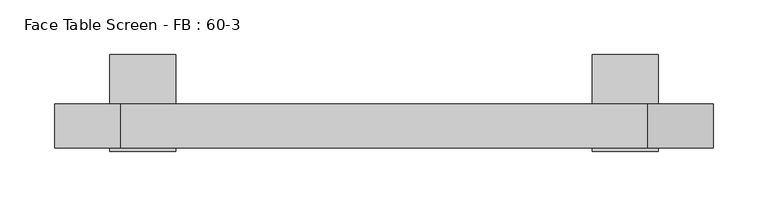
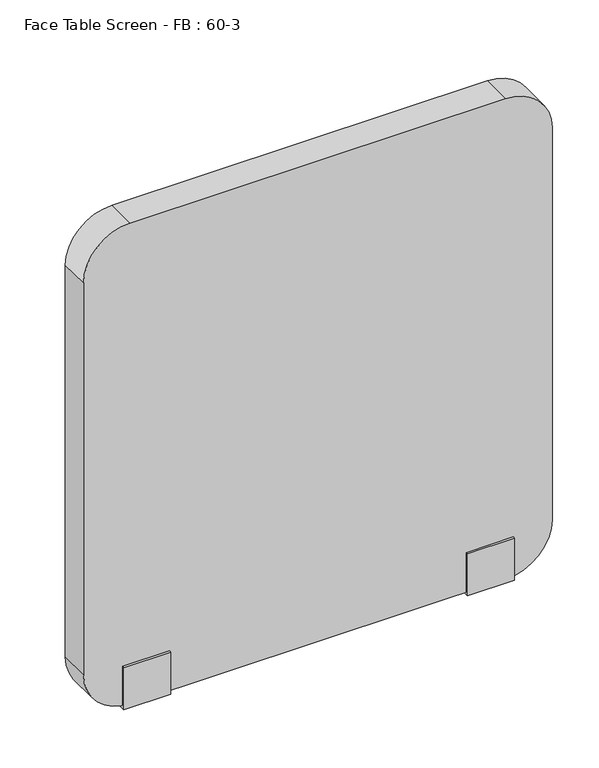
"""IFC4 building model written with IfcOpenShell, lengths in millimetres: furniture geometry, Face Table Screen - FB : 60-3."""

from ifc_helpers import new_model, si_unit, point, frame, frame_2d, origin, place, context, project, spatial, polyline, circle_curve, trimmed, segment, composite_curve, outline, extrude, source, transform, mapped, element, save


def face_table_screen_fb_60_3_41a53d86(model_context):
    return source(origin(), model_context, "Body", "SweptSolid", [
        extrude(outline(polyline([(-42.9999947, -256.0), (-42.9999997, -199.0433898), (-40.0, -199.0433898), (-40.0, -253.0), (0.0, -253.0), (0.0, -22.0), (45.0, -22.0), (45.0, -25.0433898), (3.0000062, -25.0433898), (2.9999947, -256.0), (-42.9999947, -256.0)])), frame((209.9863751, 0.0, 0.0), z_axis=(1.0, 0.0, 0.0), x_axis=(0.0, 1.0, 0.0)), (0.0, 0.0, 1.0), 60.0),
        extrude(outline(polyline([(-42.9999947, -256.0), (-42.9999997, -199.0433898), (-40.0, -199.0433898), (-40.0, -253.0), (0.0, -253.0), (0.0, -22.0), (45.0, -22.0), (45.0, -25.0433898), (3.0000062, -25.0433898), (2.9999947, -256.0), (-42.9999947, -256.0)])), frame((-230.0136249, 0.0, 0.0), z_axis=(1.0, 0.0, 0.0), x_axis=(0.0, 1.0, 0.0)), (0.0, 0.0, 1.0), 60.0),
        extrude(outline(composite_curve([segment(polyline([(397.0, 259.9863751), (397.0, -220.0136249)]), True, "CONTINUOUS"), segment(trimmed(circle_curve(frame_2d((337.0, -220.0136249)), 60.0), [point((397.0, -220.0136249))], [point((337.0, -280.0136249))], False, "CARTESIAN"), True, "CONTINUOUS"), segment(polyline([(337.0, -280.0136249), (-193.0, -280.0136249)]), True, "CONTINUOUS"), segment(trimmed(circle_curve(frame_2d((-193.0, -220.0136249)), 60.0), [point((-193.0, -280.0136249))], [point((-253.0, -220.0136249))], False, "CARTESIAN"), True, "CONTINUOUS"), segment(polyline([(-253.0, -220.0136249), (-253.0, 259.9863751)]), True, "CONTINUOUS"), segment(trimmed(circle_curve(frame_2d((-193.0, 259.9863751)), 60.0), [point((-253.0, 259.9863751))], [point((-193.0, 319.9863751))], False, "CARTESIAN"), True, "CONTINUOUS"), segment(polyline([(-193.0, 319.9863751), (337.0, 319.9863751)]), True, "CONTINUOUS"), segment(trimmed(circle_curve(frame_2d((337.0, 259.9863751)), 60.0), [point((337.0, 319.9863751))], [point((397.0, 259.9863751))], False, "CARTESIAN"), True, "CONTINUOUS")], self_intersect=False)), frame((0.0, -40.0, 0.0), z_axis=(0.0, 1.0, 0.0), x_axis=(0.0, 0.0, 1.0)), (0.0, 0.0, 1.0), 40.0),
    ])


if __name__ == "__main__":
    model = new_model("IFC4")
    model_context = context("Model", 3, world=origin())
    ifc_project = project(units=[si_unit("LENGTHUNIT", "METRE", prefix="MILLI")], contexts=[model_context])
    site = spatial("IfcSite", under=ifc_project)
    building = spatial("IfcBuilding", under=site)
    placement = place(None, origin())
    face_table_screen_fb_60_3_shape = face_table_screen_fb_60_3_41a53d86(model_context)
    element("IfcFurniture", 1, ObjectType="Face Table Screen - FB : 60-3", at=placement, inside=building, context=model_context, shape_type="MappedRepresentation", body=[
        mapped(face_table_screen_fb_60_3_shape, transform((0.0, 0.0, 0.0), x_axis=(1.0, 0.0, 0.0), y_axis=(0.0, 1.0, 0.0), z_axis=(0.0, 0.0, 1.0))),
    ])
    save(model, "model.ifc")
